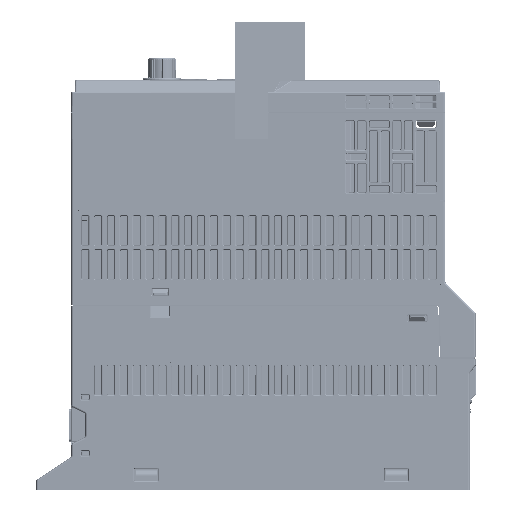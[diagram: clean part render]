
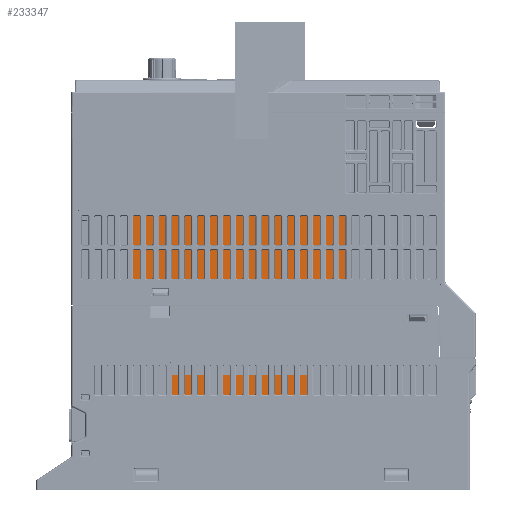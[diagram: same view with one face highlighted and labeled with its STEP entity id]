
A CAD part, left-side view. The second image highlights one B-rep face of the part: STEP entity #233347.
In plain terms, the highlighted planar face has unit normal (-1, 0, 0).
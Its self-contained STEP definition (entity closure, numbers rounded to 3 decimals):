
#11257=DIRECTION('',(0.,0.,1.));
#11258=VECTOR('',#11257,74.);
#11259=CARTESIAN_POINT('',(-24.86,-25.008,-102.));
#11260=LINE('',#11259,#11258);
#11415=DIRECTION('',(0.,1.,0.));
#11416=VECTOR('',#11415,90.163);
#11417=CARTESIAN_POINT('',(-24.86,-115.172,-28.));
#11418=LINE('',#11417,#11416);
#49757=DIRECTION('',(0.,-0.707,-0.707));
#49758=VECTOR('',#49757,2.741);
#49759=CARTESIAN_POINT('',(-24.86,-115.172,-28.));
#49760=LINE('',#49759,#49758);
#49799=DIRECTION('',(0.,0.,1.));
#49800=VECTOR('',#49799,82.032);
#49801=CARTESIAN_POINT('',(-24.86,-117.11,
-111.97));
#49802=LINE('',#49801,#49800);
#50173=DIRECTION('',(0.,-1.,0.));
#50174=VECTOR('',#50173,15.568);
#50175=CARTESIAN_POINT('',(-24.86,-27.044,-111.));
#50176=LINE('',#50175,#50174);
#50339=DIRECTION('',(0.,-1.,0.));
#50340=VECTOR('',#50339,62.223);
#50341=CARTESIAN_POINT('',(-24.86,-46.388,-111.));
#50342=LINE('',#50341,#50340);
#50362=DIRECTION('',(0.,-1.,0.));
#50363=VECTOR('',#50362,4.399);
#50364=CARTESIAN_POINT('',(-24.86,-112.388,-111.));
#50365=LINE('',#50364,#50363);
#51807=DIRECTION('',(0.,1.,0.));
#51808=VECTOR('',#51807,1.957);
#51809=CARTESIAN_POINT('',(-24.86,-26.965,-102.));
#51810=LINE('',#51809,#51808);
#52346=DIRECTION('',(0.,0.009,1.));
#52347=VECTOR('',#52346,9.);
#52348=CARTESIAN_POINT('',(-24.86,-27.044,-111.));
#52349=LINE('',#52348,#52347);
#112778=CARTESIAN_POINT('',(-24.86,-44.5,
-111.41));
#112779=CARTESIAN_POINT('',(-24.86,-44.297,
-111.41));
#112780=CARTESIAN_POINT('',(-24.86,-43.886,
-111.38));
#112781=CARTESIAN_POINT('',(-24.86,-43.265,
-111.244));
#112782=CARTESIAN_POINT('',(-24.86,-42.832,
-111.091));
#112783=CARTESIAN_POINT('',(-24.86,-42.612,-111.));
#112832=CARTESIAN_POINT('',(-24.86,-46.388,-111.));
#112833=CARTESIAN_POINT('',(-24.86,-46.167,
-111.092));
#112834=CARTESIAN_POINT('',(-24.86,-45.733,
-111.245));
#112835=CARTESIAN_POINT('',(-24.86,-45.112,
-111.38));
#112836=CARTESIAN_POINT('',(-24.86,-44.702,
-111.41));
#112837=CARTESIAN_POINT('',(-24.86,-44.5,
-111.41));
#112993=CARTESIAN_POINT('',(-24.86,-112.388,-111.));
#112994=CARTESIAN_POINT('',(-24.86,-112.167,
-111.092));
#112995=CARTESIAN_POINT('',(-24.86,-111.733,
-111.245));
#112996=CARTESIAN_POINT('',(-24.86,-111.112,
-111.38));
#112997=CARTESIAN_POINT('',(-24.86,-110.702,
-111.41));
#112998=CARTESIAN_POINT('',(-24.86,-110.5,
-111.41));
#113010=CARTESIAN_POINT('',(-24.86,-110.5,
-111.41));
#113011=CARTESIAN_POINT('',(-24.86,-110.297,
-111.41));
#113012=CARTESIAN_POINT('',(-24.86,-109.886,
-111.38));
#113013=CARTESIAN_POINT('',(-24.86,-109.265,
-111.244));
#113014=CARTESIAN_POINT('',(-24.86,-108.832,
-111.091));
#113015=CARTESIAN_POINT('',(-24.86,-108.612,-111.));
#115937=DIRECTION('',(0.,0.017,1.));
#115938=VECTOR('',#115937,0.97);
#115939=CARTESIAN_POINT('',(-24.86,-116.804,
-111.97));
#115940=LINE('',#115939,#115938);
#115972=DIRECTION('',(0.,-1.,0.));
#115973=VECTOR('',#115972,0.306);
#115974=CARTESIAN_POINT('',(-24.86,-116.804,
-111.97));
#115975=LINE('',#115974,#115973);
#183561=CARTESIAN_POINT('',(-24.86,-115.172,-28.));
#183562=CARTESIAN_POINT('',(-24.86,-25.008,-28.));
#183563=VERTEX_POINT('',#183561);
#183564=VERTEX_POINT('',#183562);
#183569=CARTESIAN_POINT('',(-24.86,-117.11,
-29.938));
#183570=VERTEX_POINT('',#183569);
#183583=CARTESIAN_POINT('',(-24.86,-27.044,-111.));
#183584=CARTESIAN_POINT('',(-24.86,-42.612,-111.));
#183585=VERTEX_POINT('',#183583);
#183586=VERTEX_POINT('',#183584);
#183587=CARTESIAN_POINT('',(-24.86,-46.388,-111.));
#183588=CARTESIAN_POINT('',(-24.86,-108.612,-111.));
#183589=VERTEX_POINT('',#183587);
#183590=VERTEX_POINT('',#183588);
#183591=CARTESIAN_POINT('',(-24.86,-112.388,-111.));
#183592=CARTESIAN_POINT('',(-24.86,-116.787,-111.));
#183593=VERTEX_POINT('',#183591);
#183594=VERTEX_POINT('',#183592);
#183601=CARTESIAN_POINT('',(-24.86,-26.965,-102.));
#183602=CARTESIAN_POINT('',(-24.86,-25.008,-102.));
#183603=VERTEX_POINT('',#183601);
#183604=VERTEX_POINT('',#183602);
#183637=CARTESIAN_POINT('',(-24.86,-116.804,
-111.97));
#183638=CARTESIAN_POINT('',(-24.86,-117.11,
-111.97));
#183639=VERTEX_POINT('',#183637);
#183640=VERTEX_POINT('',#183638);
#183653=VERTEX_POINT('',#113010);
#183654=VERTEX_POINT('',#112778);
#233313=CARTESIAN_POINT('',(-24.86,-117.11,-151.2));
#233314=DIRECTION('',(-1.,0.,0.));
#233315=DIRECTION('',(0.,1.,0.));
#233316=AXIS2_PLACEMENT_3D('',#233313,#233314,#233315);
#233317=PLANE('',#233316);
#233318=ORIENTED_EDGE('',*,*,#196011,.F.);
#233319=ORIENTED_EDGE('',*,*,#233299,.T.);
#233321=ORIENTED_EDGE('',*,*,#233320,.F.);
#233323=ORIENTED_EDGE('',*,*,#233322,.F.);
#233325=ORIENTED_EDGE('',*,*,#233324,.T.);
#233327=ORIENTED_EDGE('',*,*,#233326,.F.);
#233329=ORIENTED_EDGE('',*,*,#233328,.T.);
#233331=ORIENTED_EDGE('',*,*,#233330,.T.);
#233333=ORIENTED_EDGE('',*,*,#233332,.F.);
#233335=ORIENTED_EDGE('',*,*,#233334,.T.);
#233337=ORIENTED_EDGE('',*,*,#233336,.T.);
#233339=ORIENTED_EDGE('',*,*,#233338,.F.);
#233341=ORIENTED_EDGE('',*,*,#233340,.T.);
#233343=ORIENTED_EDGE('',*,*,#233342,.T.);
#233344=ORIENTED_EDGE('',*,*,#195934,.T.);
#233345=EDGE_LOOP('',(#233318,#233319,#233321,#233323,#233325,#233327,#233329,
#233331,#233333,#233335,#233337,#233339,#233341,#233343,#233344));
#233346=FACE_OUTER_BOUND('',#233345,.F.);
#233347=ADVANCED_FACE('',(#233346),#233317,.T.);
#112784=B_SPLINE_CURVE_WITH_KNOTS('',3,(#112778,#112779,#112780,#112781,#112782,
#112783),.UNSPECIFIED.,.F.,.F.,(4,1,1,4),(0.,0.333,
0.667,1.),.UNSPECIFIED.);
#112838=B_SPLINE_CURVE_WITH_KNOTS('',3,(#112832,#112833,#112834,#112835,#112836,
#112837),.UNSPECIFIED.,.F.,.F.,(4,1,1,4),(0.,0.333,
0.667,1.),.UNSPECIFIED.);
#112999=B_SPLINE_CURVE_WITH_KNOTS('',3,(#112993,#112994,#112995,#112996,#112997,
#112998),.UNSPECIFIED.,.F.,.F.,(4,1,1,4),(0.,0.333,
0.667,1.),.UNSPECIFIED.);
#113016=B_SPLINE_CURVE_WITH_KNOTS('',3,(#113010,#113011,#113012,#113013,#113014,
#113015),.UNSPECIFIED.,.F.,.F.,(4,1,1,4),(0.,0.333,
0.667,1.),.UNSPECIFIED.);
#195934=EDGE_CURVE('',#183604,#183564,#11260,.T.);
#196011=EDGE_CURVE('',#183563,#183564,#11418,.T.);
#233299=EDGE_CURVE('',#183563,#183570,#49760,.T.);
#233320=EDGE_CURVE('',#183640,#183570,#49802,.T.);
#233322=EDGE_CURVE('',#183639,#183640,#115975,.T.);
#233324=EDGE_CURVE('',#183639,#183594,#115940,.T.);
#233326=EDGE_CURVE('',#183593,#183594,#50365,.T.);
#233328=EDGE_CURVE('',#183593,#183653,#112999,.T.);
#233330=EDGE_CURVE('',#183653,#183590,#113016,.T.);
#233332=EDGE_CURVE('',#183589,#183590,#50342,.T.);
#233334=EDGE_CURVE('',#183589,#183654,#112838,.T.);
#233336=EDGE_CURVE('',#183654,#183586,#112784,.T.);
#233338=EDGE_CURVE('',#183585,#183586,#50176,.T.);
#233340=EDGE_CURVE('',#183585,#183603,#52349,.T.);
#233342=EDGE_CURVE('',#183603,#183604,#51810,.T.);
